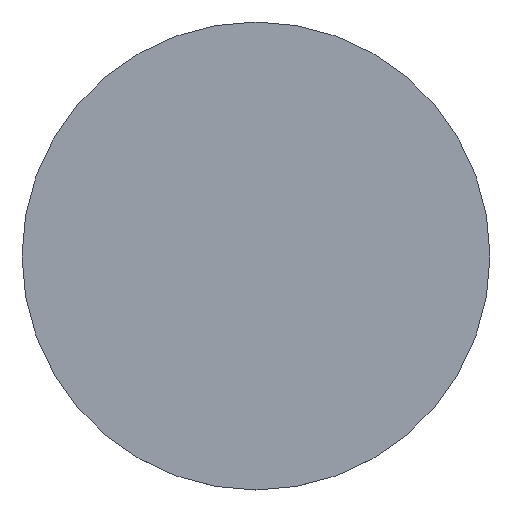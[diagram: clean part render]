
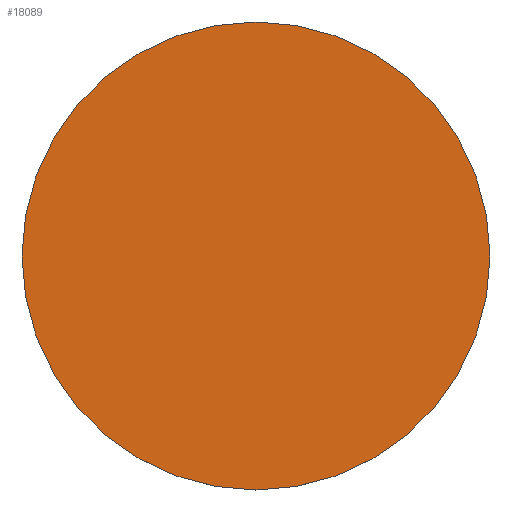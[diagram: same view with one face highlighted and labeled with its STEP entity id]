
A CAD part, top view. The second image highlights one B-rep face of the part: STEP entity #18089.
In plain terms, the highlighted planar face has unit normal (0, 0, 1).
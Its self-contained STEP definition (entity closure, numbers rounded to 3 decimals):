
#1130 = DIRECTION ( 'NONE',  ( 1., 0., 0. ) ) ;
#4841 = AXIS2_PLACEMENT_3D ( 'NONE', #8413, #38166, #1130 ) ;
#8413 = CARTESIAN_POINT ( 'NONE',  ( 0., 27.5, 2. ) ) ;
#11539 = EDGE_CURVE ( 'NONE', #17734, #42026, #14504, .T. ) ;
#12066 = DIRECTION ( 'NONE',  ( 0., 0., 1. ) ) ;
#12318 = PLANE ( 'NONE',  #4841 ) ;
#14504 = CIRCLE ( 'NONE', #47983, 85. ) ;
#16807 = CARTESIAN_POINT ( 'NONE',  ( -85., 0., 2. ) ) ;
#17734 = VERTEX_POINT ( 'NONE', #16807 ) ;
#18089 = ADVANCED_FACE ( 'NONE', ( #26940 ), #12318, .T. ) ;
#22001 = ORIENTED_EDGE ( 'NONE', *, *, #11539, .T. ) ;
#25231 = AXIS2_PLACEMENT_3D ( 'NONE', #26465, #12066, #45472 ) ;
#26465 = CARTESIAN_POINT ( 'NONE',  ( 0., 0., 2. ) ) ;
#26940 = FACE_OUTER_BOUND ( 'NONE', #31572, .T. ) ;
#31572 = EDGE_LOOP ( 'NONE', ( #22001, #38667 ) ) ;
#31831 = CARTESIAN_POINT ( 'NONE',  ( 85., 0., 2. ) ) ;
#32239 = CIRCLE ( 'NONE', #25231, 85. ) ;
#38166 = DIRECTION ( 'NONE',  ( 0., 0., 1. ) ) ;
#38667 = ORIENTED_EDGE ( 'NONE', *, *, #40673, .T. ) ;
#40673 = EDGE_CURVE ( 'NONE', #42026, #17734, #32239, .T. ) ;
#42026 = VERTEX_POINT ( 'NONE', #31831 ) ;
#45472 = DIRECTION ( 'NONE',  ( 1., 0., 0. ) ) ;
#46832 = DIRECTION ( 'NONE',  ( 0., 0., 1. ) ) ;
#47324 = DIRECTION ( 'NONE',  ( 1., 0., 0. ) ) ;
#47559 = CARTESIAN_POINT ( 'NONE',  ( 0., 0., 2. ) ) ;
#47983 = AXIS2_PLACEMENT_3D ( 'NONE', #47559, #46832, #47324 ) ;
